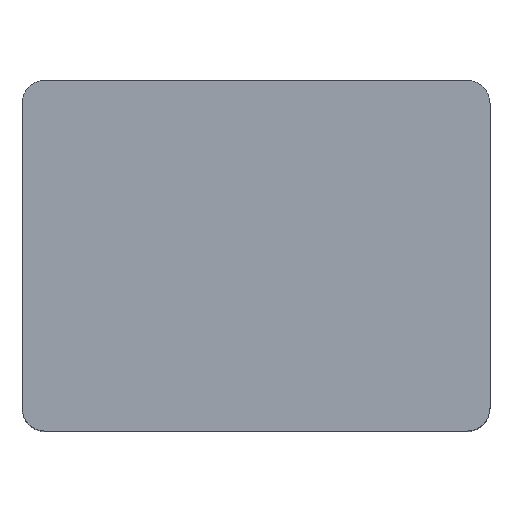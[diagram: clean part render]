
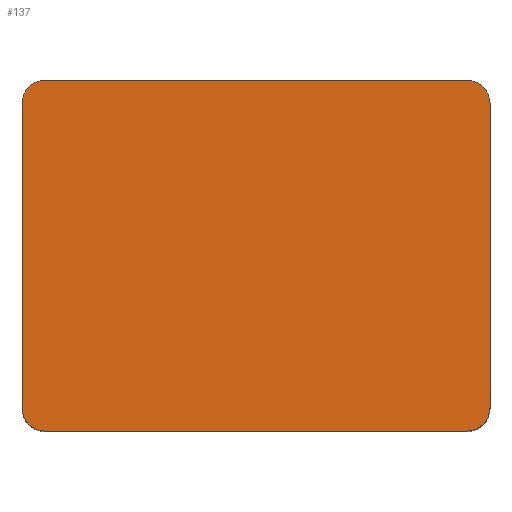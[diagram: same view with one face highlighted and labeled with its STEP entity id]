
A CAD part, top view. The second image highlights one B-rep face of the part: STEP entity #137.
In plain terms, the highlighted planar face has unit normal (0, 0, 1).
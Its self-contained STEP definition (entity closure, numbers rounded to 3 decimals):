
#21 = EDGE_CURVE('',#22,#24,#26,.T.);
#22 = VERTEX_POINT('',#23);
#23 = CARTESIAN_POINT('',(-4.,-2.6,10.25));
#24 = VERTEX_POINT('',#25);
#25 = CARTESIAN_POINT('',(-4.,2.6,10.25));
#26 = SURFACE_CURVE('',#27,(#31,#43),.PCURVE_S1.);
#27 = LINE('',#28,#29);
#28 = CARTESIAN_POINT('',(-4.,-3.,10.25));
#29 = VECTOR('',#30,1.);
#30 = DIRECTION('',(0.,1.,0.));
#31 = PCURVE('',#32,#37);
#32 = PLANE('',#33);
#33 = AXIS2_PLACEMENT_3D('',#34,#35,#36);
#34 = CARTESIAN_POINT('',(-4.,-3.,2.25));
#35 = DIRECTION('',(1.,0.,0.));
#36 = DIRECTION('',(0.,0.,1.));
#37 = DEFINITIONAL_REPRESENTATION('',(#38),#42);
#38 = LINE('',#39,#40);
#39 = CARTESIAN_POINT('',(8.,0.));
#40 = VECTOR('',#41,1.);
#41 = DIRECTION('',(0.,-1.));
#42 = ( GEOMETRIC_REPRESENTATION_CONTEXT(2) 
PARAMETRIC_REPRESENTATION_CONTEXT() REPRESENTATION_CONTEXT('2D SPACE',''
  ) );
#43 = PCURVE('',#44,#49);
#44 = PLANE('',#45);
#45 = AXIS2_PLACEMENT_3D('',#46,#47,#48);
#46 = CARTESIAN_POINT('',(-4.,-3.,10.25));
#47 = DIRECTION('',(0.,0.,1.));
#48 = DIRECTION('',(1.,0.,0.));
#49 = DEFINITIONAL_REPRESENTATION('',(#50),#54);
#50 = LINE('',#51,#52);
#51 = CARTESIAN_POINT('',(0.,0.));
#52 = VECTOR('',#53,1.);
#53 = DIRECTION('',(0.,1.));
#54 = ( GEOMETRIC_REPRESENTATION_CONTEXT(2) 
PARAMETRIC_REPRESENTATION_CONTEXT() REPRESENTATION_CONTEXT('2D SPACE',''
  ) );
#72 = CYLINDRICAL_SURFACE('',#73,0.4);
#73 = AXIS2_PLACEMENT_3D('',#74,#75,#76);
#74 = CARTESIAN_POINT('',(-3.6,-2.6,2.25));
#75 = DIRECTION('',(0.,0.,1.));
#76 = DIRECTION('',(-1.,-0.,0.));
#126 = CYLINDRICAL_SURFACE('',#127,0.4);
#127 = AXIS2_PLACEMENT_3D('',#128,#129,#130);
#128 = CARTESIAN_POINT('',(-3.6,2.6,2.25));
#129 = DIRECTION('',(0.,0.,1.));
#130 = DIRECTION('',(-1.,-0.,0.));
#137 = ADVANCED_FACE('',(#138),#44,.T.);
#138 = FACE_BOUND('',#139,.T.);
#139 = EDGE_LOOP('',(#140,#141,#165,#193,#226,#254,#283,#311));
#140 = ORIENTED_EDGE('',*,*,#21,.F.);
#141 = ORIENTED_EDGE('',*,*,#142,.T.);
#142 = EDGE_CURVE('',#22,#143,#145,.T.);
#143 = VERTEX_POINT('',#144);
#144 = CARTESIAN_POINT('',(-3.6,-3.,10.25));
#145 = SURFACE_CURVE('',#146,(#151,#158),.PCURVE_S1.);
#146 = CIRCLE('',#147,0.4);
#147 = AXIS2_PLACEMENT_3D('',#148,#149,#150);
#148 = CARTESIAN_POINT('',(-3.6,-2.6,10.25));
#149 = DIRECTION('',(0.,0.,1.));
#150 = DIRECTION('',(0.,-1.,0.));
#151 = PCURVE('',#44,#152);
#152 = DEFINITIONAL_REPRESENTATION('',(#153),#157);
#153 = CIRCLE('',#154,0.4);
#154 = AXIS2_PLACEMENT_2D('',#155,#156);
#155 = CARTESIAN_POINT('',(0.4,0.4));
#156 = DIRECTION('',(0.,-1.));
#157 = ( GEOMETRIC_REPRESENTATION_CONTEXT(2) 
PARAMETRIC_REPRESENTATION_CONTEXT() REPRESENTATION_CONTEXT('2D SPACE',''
  ) );
#158 = PCURVE('',#72,#159);
#159 = DEFINITIONAL_REPRESENTATION('',(#160),#164);
#160 = LINE('',#161,#162);
#161 = CARTESIAN_POINT('',(-4.712,8.));
#162 = VECTOR('',#163,1.);
#163 = DIRECTION('',(1.,0.));
#164 = ( GEOMETRIC_REPRESENTATION_CONTEXT(2) 
PARAMETRIC_REPRESENTATION_CONTEXT() REPRESENTATION_CONTEXT('2D SPACE',''
  ) );
#165 = ORIENTED_EDGE('',*,*,#166,.T.);
#166 = EDGE_CURVE('',#143,#167,#169,.T.);
#167 = VERTEX_POINT('',#168);
#168 = CARTESIAN_POINT('',(3.6,-3.,10.25));
#169 = SURFACE_CURVE('',#170,(#174,#181),.PCURVE_S1.);
#170 = LINE('',#171,#172);
#171 = CARTESIAN_POINT('',(-4.,-3.,10.25));
#172 = VECTOR('',#173,1.);
#173 = DIRECTION('',(1.,0.,0.));
#174 = PCURVE('',#44,#175);
#175 = DEFINITIONAL_REPRESENTATION('',(#176),#180);
#176 = LINE('',#177,#178);
#177 = CARTESIAN_POINT('',(0.,0.));
#178 = VECTOR('',#179,1.);
#179 = DIRECTION('',(1.,0.));
#180 = ( GEOMETRIC_REPRESENTATION_CONTEXT(2) 
PARAMETRIC_REPRESENTATION_CONTEXT() REPRESENTATION_CONTEXT('2D SPACE',''
  ) );
#181 = PCURVE('',#182,#187);
#182 = PLANE('',#183);
#183 = AXIS2_PLACEMENT_3D('',#184,#185,#186);
#184 = CARTESIAN_POINT('',(-4.,-3.,2.25));
#185 = DIRECTION('',(0.,1.,0.));
#186 = DIRECTION('',(0.,0.,1.));
#187 = DEFINITIONAL_REPRESENTATION('',(#188),#192);
#188 = LINE('',#189,#190);
#189 = CARTESIAN_POINT('',(8.,0.));
#190 = VECTOR('',#191,1.);
#191 = DIRECTION('',(0.,1.));
#192 = ( GEOMETRIC_REPRESENTATION_CONTEXT(2) 
PARAMETRIC_REPRESENTATION_CONTEXT() REPRESENTATION_CONTEXT('2D SPACE',''
  ) );
#193 = ORIENTED_EDGE('',*,*,#194,.F.);
#194 = EDGE_CURVE('',#195,#167,#197,.T.);
#195 = VERTEX_POINT('',#196);
#196 = CARTESIAN_POINT('',(4.,-2.6,10.25));
#197 = SURFACE_CURVE('',#198,(#203,#214),.PCURVE_S1.);
#198 = CIRCLE('',#199,0.4);
#199 = AXIS2_PLACEMENT_3D('',#200,#201,#202);
#200 = CARTESIAN_POINT('',(3.6,-2.6,10.25));
#201 = DIRECTION('',(-0.,-0.,-1.));
#202 = DIRECTION('',(0.,-1.,0.));
#203 = PCURVE('',#44,#204);
#204 = DEFINITIONAL_REPRESENTATION('',(#205),#213);
#205 = ( BOUNDED_CURVE() B_SPLINE_CURVE(2,(#206,#207,#208,#209,#210,#211
,#212),.UNSPECIFIED.,.T.,.F.) B_SPLINE_CURVE_WITH_KNOTS((1,2,2,2,2,1),(
    -2.094,0.,2.094,4.189,6.283,
8.378),.UNSPECIFIED.) CURVE() GEOMETRIC_REPRESENTATION_ITEM() 
RATIONAL_B_SPLINE_CURVE((1.,0.5,1.,0.5,1.,0.5,1.)) REPRESENTATION_ITEM(
  '') );
#206 = CARTESIAN_POINT('',(7.6,0.));
#207 = CARTESIAN_POINT('',(6.907,0.));
#208 = CARTESIAN_POINT('',(7.254,0.6));
#209 = CARTESIAN_POINT('',(7.6,1.2));
#210 = CARTESIAN_POINT('',(7.946,0.6));
#211 = CARTESIAN_POINT('',(8.293,0.));
#212 = CARTESIAN_POINT('',(7.6,0.));
#213 = ( GEOMETRIC_REPRESENTATION_CONTEXT(2) 
PARAMETRIC_REPRESENTATION_CONTEXT() REPRESENTATION_CONTEXT('2D SPACE',''
  ) );
#214 = PCURVE('',#215,#220);
#215 = CYLINDRICAL_SURFACE('',#216,0.4);
#216 = AXIS2_PLACEMENT_3D('',#217,#218,#219);
#217 = CARTESIAN_POINT('',(3.6,-2.6,2.25));
#218 = DIRECTION('',(0.,0.,1.));
#219 = DIRECTION('',(1.,0.,-0.));
#220 = DEFINITIONAL_REPRESENTATION('',(#221),#225);
#221 = LINE('',#222,#223);
#222 = CARTESIAN_POINT('',(4.712,8.));
#223 = VECTOR('',#224,1.);
#224 = DIRECTION('',(-1.,0.));
#225 = ( GEOMETRIC_REPRESENTATION_CONTEXT(2) 
PARAMETRIC_REPRESENTATION_CONTEXT() REPRESENTATION_CONTEXT('2D SPACE',''
  ) );
#226 = ORIENTED_EDGE('',*,*,#227,.T.);
#227 = EDGE_CURVE('',#195,#228,#230,.T.);
#228 = VERTEX_POINT('',#229);
#229 = CARTESIAN_POINT('',(4.,2.6,10.25));
#230 = SURFACE_CURVE('',#231,(#235,#242),.PCURVE_S1.);
#231 = LINE('',#232,#233);
#232 = CARTESIAN_POINT('',(4.,-3.,10.25));
#233 = VECTOR('',#234,1.);
#234 = DIRECTION('',(0.,1.,0.));
#235 = PCURVE('',#44,#236);
#236 = DEFINITIONAL_REPRESENTATION('',(#237),#241);
#237 = LINE('',#238,#239);
#238 = CARTESIAN_POINT('',(8.,0.));
#239 = VECTOR('',#240,1.);
#240 = DIRECTION('',(0.,1.));
#241 = ( GEOMETRIC_REPRESENTATION_CONTEXT(2) 
PARAMETRIC_REPRESENTATION_CONTEXT() REPRESENTATION_CONTEXT('2D SPACE',''
  ) );
#242 = PCURVE('',#243,#248);
#243 = PLANE('',#244);
#244 = AXIS2_PLACEMENT_3D('',#245,#246,#247);
#245 = CARTESIAN_POINT('',(4.,-3.,2.25));
#246 = DIRECTION('',(1.,0.,0.));
#247 = DIRECTION('',(0.,0.,1.));
#248 = DEFINITIONAL_REPRESENTATION('',(#249),#253);
#249 = LINE('',#250,#251);
#250 = CARTESIAN_POINT('',(8.,0.));
#251 = VECTOR('',#252,1.);
#252 = DIRECTION('',(0.,-1.));
#253 = ( GEOMETRIC_REPRESENTATION_CONTEXT(2) 
PARAMETRIC_REPRESENTATION_CONTEXT() REPRESENTATION_CONTEXT('2D SPACE',''
  ) );
#254 = ORIENTED_EDGE('',*,*,#255,.T.);
#255 = EDGE_CURVE('',#228,#256,#258,.T.);
#256 = VERTEX_POINT('',#257);
#257 = CARTESIAN_POINT('',(3.6,3.,10.25));
#258 = SURFACE_CURVE('',#259,(#264,#271),.PCURVE_S1.);
#259 = CIRCLE('',#260,0.4);
#260 = AXIS2_PLACEMENT_3D('',#261,#262,#263);
#261 = CARTESIAN_POINT('',(3.6,2.6,10.25));
#262 = DIRECTION('',(0.,0.,1.));
#263 = DIRECTION('',(0.,-1.,0.));
#264 = PCURVE('',#44,#265);
#265 = DEFINITIONAL_REPRESENTATION('',(#266),#270);
#266 = CIRCLE('',#267,0.4);
#267 = AXIS2_PLACEMENT_2D('',#268,#269);
#268 = CARTESIAN_POINT('',(7.6,5.6));
#269 = DIRECTION('',(0.,-1.));
#270 = ( GEOMETRIC_REPRESENTATION_CONTEXT(2) 
PARAMETRIC_REPRESENTATION_CONTEXT() REPRESENTATION_CONTEXT('2D SPACE',''
  ) );
#271 = PCURVE('',#272,#277);
#272 = CYLINDRICAL_SURFACE('',#273,0.4);
#273 = AXIS2_PLACEMENT_3D('',#274,#275,#276);
#274 = CARTESIAN_POINT('',(3.6,2.6,2.25));
#275 = DIRECTION('',(0.,0.,1.));
#276 = DIRECTION('',(1.,0.,-0.));
#277 = DEFINITIONAL_REPRESENTATION('',(#278),#282);
#278 = LINE('',#279,#280);
#279 = CARTESIAN_POINT('',(-1.571,8.));
#280 = VECTOR('',#281,1.);
#281 = DIRECTION('',(1.,0.));
#282 = ( GEOMETRIC_REPRESENTATION_CONTEXT(2) 
PARAMETRIC_REPRESENTATION_CONTEXT() REPRESENTATION_CONTEXT('2D SPACE',''
  ) );
#283 = ORIENTED_EDGE('',*,*,#284,.F.);
#284 = EDGE_CURVE('',#285,#256,#287,.T.);
#285 = VERTEX_POINT('',#286);
#286 = CARTESIAN_POINT('',(-3.6,3.,10.25));
#287 = SURFACE_CURVE('',#288,(#292,#299),.PCURVE_S1.);
#288 = LINE('',#289,#290);
#289 = CARTESIAN_POINT('',(-4.,3.,10.25));
#290 = VECTOR('',#291,1.);
#291 = DIRECTION('',(1.,0.,0.));
#292 = PCURVE('',#44,#293);
#293 = DEFINITIONAL_REPRESENTATION('',(#294),#298);
#294 = LINE('',#295,#296);
#295 = CARTESIAN_POINT('',(0.,6.));
#296 = VECTOR('',#297,1.);
#297 = DIRECTION('',(1.,0.));
#298 = ( GEOMETRIC_REPRESENTATION_CONTEXT(2) 
PARAMETRIC_REPRESENTATION_CONTEXT() REPRESENTATION_CONTEXT('2D SPACE',''
  ) );
#299 = PCURVE('',#300,#305);
#300 = PLANE('',#301);
#301 = AXIS2_PLACEMENT_3D('',#302,#303,#304);
#302 = CARTESIAN_POINT('',(-4.,3.,2.25));
#303 = DIRECTION('',(0.,1.,0.));
#304 = DIRECTION('',(0.,0.,1.));
#305 = DEFINITIONAL_REPRESENTATION('',(#306),#310);
#306 = LINE('',#307,#308);
#307 = CARTESIAN_POINT('',(8.,0.));
#308 = VECTOR('',#309,1.);
#309 = DIRECTION('',(0.,1.));
#310 = ( GEOMETRIC_REPRESENTATION_CONTEXT(2) 
PARAMETRIC_REPRESENTATION_CONTEXT() REPRESENTATION_CONTEXT('2D SPACE',''
  ) );
#311 = ORIENTED_EDGE('',*,*,#312,.F.);
#312 = EDGE_CURVE('',#24,#285,#313,.T.);
#313 = SURFACE_CURVE('',#314,(#319,#330),.PCURVE_S1.);
#314 = CIRCLE('',#315,0.4);
#315 = AXIS2_PLACEMENT_3D('',#316,#317,#318);
#316 = CARTESIAN_POINT('',(-3.6,2.6,10.25));
#317 = DIRECTION('',(-0.,-0.,-1.));
#318 = DIRECTION('',(0.,-1.,0.));
#319 = PCURVE('',#44,#320);
#320 = DEFINITIONAL_REPRESENTATION('',(#321),#329);
#321 = ( BOUNDED_CURVE() B_SPLINE_CURVE(2,(#322,#323,#324,#325,#326,#327
,#328),.UNSPECIFIED.,.T.,.F.) B_SPLINE_CURVE_WITH_KNOTS((1,2,2,2,2,1),(
    -2.094,0.,2.094,4.189,6.283,
8.378),.UNSPECIFIED.) CURVE() GEOMETRIC_REPRESENTATION_ITEM() 
RATIONAL_B_SPLINE_CURVE((1.,0.5,1.,0.5,1.,0.5,1.)) REPRESENTATION_ITEM(
  '') );
#322 = CARTESIAN_POINT('',(0.4,5.2));
#323 = CARTESIAN_POINT('',(-0.293,5.2));
#324 = CARTESIAN_POINT('',(0.054,5.8));
#325 = CARTESIAN_POINT('',(0.4,6.4));
#326 = CARTESIAN_POINT('',(0.746,5.8));
#327 = CARTESIAN_POINT('',(1.093,5.2));
#328 = CARTESIAN_POINT('',(0.4,5.2));
#329 = ( GEOMETRIC_REPRESENTATION_CONTEXT(2) 
PARAMETRIC_REPRESENTATION_CONTEXT() REPRESENTATION_CONTEXT('2D SPACE',''
  ) );
#330 = PCURVE('',#126,#331);
#331 = DEFINITIONAL_REPRESENTATION('',(#332),#336);
#332 = LINE('',#333,#334);
#333 = CARTESIAN_POINT('',(1.571,8.));
#334 = VECTOR('',#335,1.);
#335 = DIRECTION('',(-1.,0.));
#336 = ( GEOMETRIC_REPRESENTATION_CONTEXT(2) 
PARAMETRIC_REPRESENTATION_CONTEXT() REPRESENTATION_CONTEXT('2D SPACE',''
  ) );
